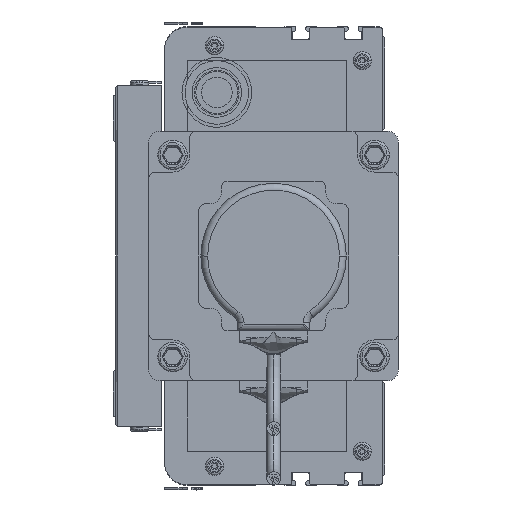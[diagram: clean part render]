
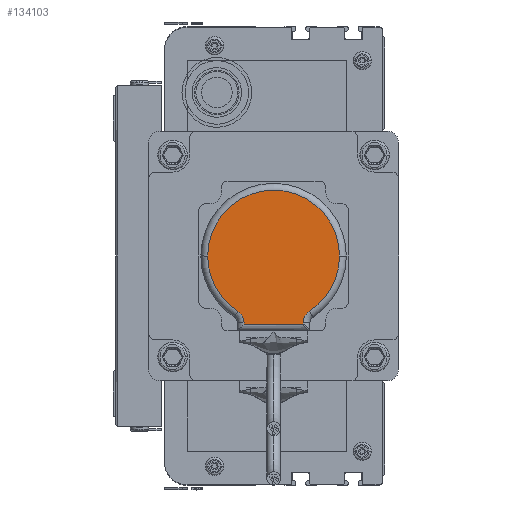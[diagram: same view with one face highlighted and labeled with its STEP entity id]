
A CAD part, left-side view. The second image highlights one B-rep face of the part: STEP entity #134103.
In plain terms, the highlighted planar face has unit normal (-1, 0, 0) as drawn and (0, 0, 1) by its records, which use the part's own axes.
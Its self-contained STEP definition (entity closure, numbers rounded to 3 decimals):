
#133984 = VERTEX_POINT ( 'NONE', #150913 ) ;
#133990 = EDGE_CURVE ( 'NONE', #133991, #133984, #150924, .T. ) ;
#133991 = VERTEX_POINT ( 'NONE', #150883 ) ;
#134052 = ORIENTED_EDGE ( 'NONE', *, *, #133990, .T. ) ;
#134053 = ORIENTED_EDGE ( 'NONE', *, *, #134112, .F. ) ;
#134054 = VERTEX_POINT ( 'NONE', #151741 ) ;
#134056 = EDGE_CURVE ( 'NONE', #134067, #134178, #151679, .T. ) ;
#134067 = VERTEX_POINT ( 'NONE', #151851 ) ;
#134087 = EDGE_CURVE ( 'NONE', #134089, #134100, #152310, .T. ) ;
#134089 = VERTEX_POINT ( 'NONE', #152286 ) ;
#134100 = VERTEX_POINT ( 'NONE', #151935 ) ;
#134101 = ORIENTED_EDGE ( 'NONE', *, *, #134179, .F. ) ;
#134102 = ORIENTED_EDGE ( 'NONE', *, *, #134056, .T. ) ;
#134103 = ADVANCED_FACE ( 'NONE', ( #152293 ), #152218, .T. ) ;
#134104 = VERTEX_POINT ( 'NONE', #152128 ) ;
#134112 = EDGE_CURVE ( 'NONE', #133991, #134104, #152432, .T. ) ;
#134116 = EDGE_CURVE ( 'NONE', #133984, #134067, #152391, .T. ) ;
#134117 = EDGE_LOOP ( 'NONE', ( #134053, #134052, #134177, #134102, #134101, #134120, #134122, #134180 ) ) ;
#134120 = ORIENTED_EDGE ( 'NONE', *, *, #134087, .T. ) ;
#134121 = EDGE_CURVE ( 'NONE', #134100, #134054, #152552, .T. ) ;
#134122 = ORIENTED_EDGE ( 'NONE', *, *, #134121, .T. ) ;
#134123 = EDGE_CURVE ( 'NONE', #134054, #134104, #152530, .T. ) ;
#134177 = ORIENTED_EDGE ( 'NONE', *, *, #134116, .T. ) ;
#134178 = VERTEX_POINT ( 'NONE', #152926 ) ;
#134179 = EDGE_CURVE ( 'NONE', #134089, #134178, #152848, .T. ) ;
#134180 = ORIENTED_EDGE ( 'NONE', *, *, #134123, .T. ) ;
#150841 = DIRECTION ( 'NONE',  ( 1., 0., 0. ) ) ;
#150845 = DIRECTION ( 'NONE',  ( 0., 0., 1. ) ) ;
#150849 = CARTESIAN_POINT ( 'NONE',  ( 33., 33., 25. ) ) ;
#150865 = AXIS2_PLACEMENT_3D ( 'NONE', #150849, #150845, #150841 ) ;
#150883 = CARTESIAN_POINT ( 'NONE',  ( 17.257, 57.355, 25. ) ) ;
#150913 = CARTESIAN_POINT ( 'NONE',  ( 4., 33., 25. ) ) ;
#150924 = CIRCLE ( 'NONE', #150865, 29. ) ;
#151645 = DIRECTION ( 'NONE',  ( 1., 0., 0. ) ) ;
#151647 = DIRECTION ( 'NONE',  ( 0., 0., 1. ) ) ;
#151660 = CARTESIAN_POINT ( 'NONE',  ( 33., 33., 25. ) ) ;
#151663 = AXIS2_PLACEMENT_3D ( 'NONE', #151660, #151647, #151645 ) ;
#151679 = CIRCLE ( 'NONE', #151663, 29. ) ;
#151741 = CARTESIAN_POINT ( 'NONE',  ( 20., 63., 25. ) ) ;
#151851 = CARTESIAN_POINT ( 'NONE',  ( 62., 33., 25. ) ) ;
#151935 = CARTESIAN_POINT ( 'NONE',  ( 46., 63., 25. ) ) ;
#152128 = CARTESIAN_POINT ( 'NONE',  ( 20., 62.394, 25. ) ) ;
#152189 = DIRECTION ( 'NONE',  ( 1., 0., 0. ) ) ;
#152210 = AXIS2_PLACEMENT_3D ( 'NONE', #152266, #152264, #152189 ) ;
#152218 = PLANE ( 'NONE',  #152210 ) ;
#152264 = DIRECTION ( 'NONE',  ( 0., 0., 1. ) ) ;
#152266 = CARTESIAN_POINT ( 'NONE',  ( 33., 33., 25. ) ) ;
#152279 = DIRECTION ( 'NONE',  ( 0., 1., 0. ) ) ;
#152282 = VECTOR ( 'NONE', #152279, 1000. ) ;
#152286 = CARTESIAN_POINT ( 'NONE',  ( 46., 62.394, 25. ) ) ;
#152293 = FACE_OUTER_BOUND ( 'NONE', #134117, .T. ) ;
#152307 = CARTESIAN_POINT ( 'NONE',  ( 46., 33., 25. ) ) ;
#152310 = LINE ( 'NONE', #152307, #152282 ) ;
#152337 = DIRECTION ( 'NONE',  ( 1., 0., 0. ) ) ;
#152339 = DIRECTION ( 'NONE',  ( 0., 0., 1. ) ) ;
#152376 = DIRECTION ( 'NONE',  ( 1., 0., 0. ) ) ;
#152377 = DIRECTION ( 'NONE',  ( 0., 0., 1. ) ) ;
#152380 = CARTESIAN_POINT ( 'NONE',  ( 14., 62.394, 25. ) ) ;
#152391 = CIRCLE ( 'NONE', #152411, 29. ) ;
#152411 = AXIS2_PLACEMENT_3D ( 'NONE', #152425, #152339, #152337 ) ;
#152425 = CARTESIAN_POINT ( 'NONE',  ( 33., 33., 25. ) ) ;
#152430 = AXIS2_PLACEMENT_3D ( 'NONE', #152380, #152377, #152376 ) ;
#152432 = CIRCLE ( 'NONE', #152430, 6. ) ;
#152521 = DIRECTION ( 'NONE',  ( 0., -1., 0. ) ) ;
#152523 = VECTOR ( 'NONE', #152521, 1000. ) ;
#152527 = CARTESIAN_POINT ( 'NONE',  ( 20., 33., 25. ) ) ;
#152530 = LINE ( 'NONE', #152527, #152523 ) ;
#152546 = DIRECTION ( 'NONE',  ( -1., 0., 0. ) ) ;
#152548 = VECTOR ( 'NONE', #152546, 1000. ) ;
#152549 = CARTESIAN_POINT ( 'NONE',  ( 17.5, 63., 25. ) ) ;
#152552 = LINE ( 'NONE', #152549, #152548 ) ;
#152848 = CIRCLE ( 'NONE', #152891, 6. ) ;
#152868 = DIRECTION ( 'NONE',  ( 0., 0., 1. ) ) ;
#152871 = CARTESIAN_POINT ( 'NONE',  ( 52., 62.394, 25. ) ) ;
#152891 = AXIS2_PLACEMENT_3D ( 'NONE', #152871, #152868, #153122 ) ;
#152926 = CARTESIAN_POINT ( 'NONE',  ( 48.743, 57.355, 25. ) ) ;
#153122 = DIRECTION ( 'NONE',  ( 1., 0., 0. ) ) ;
